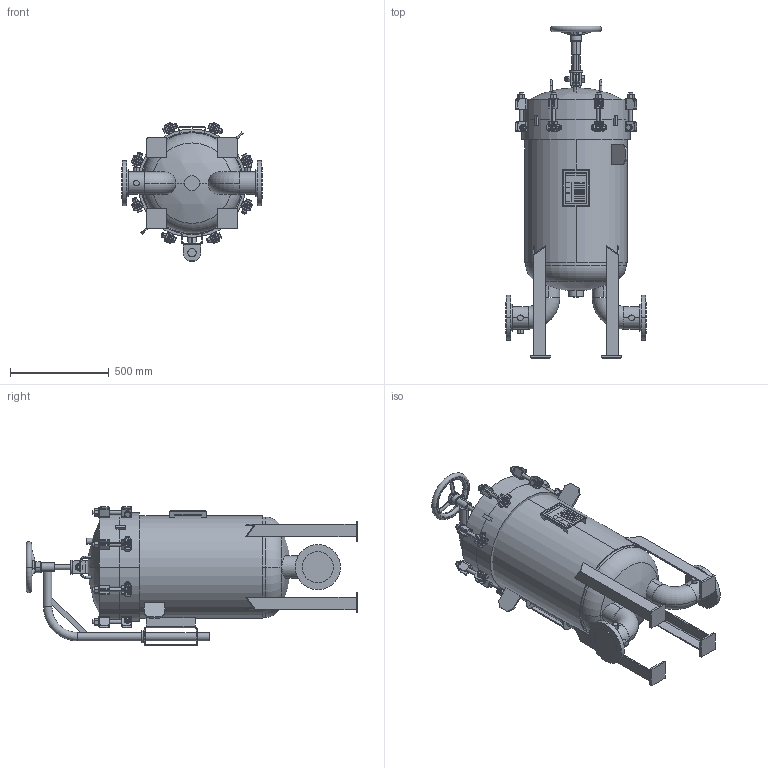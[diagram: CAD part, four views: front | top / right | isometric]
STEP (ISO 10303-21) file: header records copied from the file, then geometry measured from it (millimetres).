
FILE_DESCRIPTION (( 'STEP AP203' ), '1' );
FILE_NAME ('002005-00173.step', '2025-12-09T14:46:25', ( '' ), ( '' ), 'SwSTEP 2.0', 'SolidWorks 2023', '' );
FILE_SCHEMA (( 'CONFIG_CONTROL_DESIGN' ));
Length unit declared in the file: inch
Products named in the file (1): 002005-00173
Bounding box: 711.2 x 1681.99 x 704.28 mm (x, y, z)
Volume: 95352486.1 mm3; surface area: 6591948 mm2
Topology: 50 solids, 50 shells, 1697 faces, 3934 edges, 2442 vertices
Faces by surface type: plane 717, cylinder 470, cone 364, torus 86, bspline 48, sphere 12
Entity records: 55821 total; most frequent: CARTESIAN_POINT 17721, DIRECTION 8002, ORIENTED_EDGE 7844, EDGE_CURVE 3922, AXIS2_PLACEMENT_3D 3186, VERTEX_POINT 2442, EDGE_LOOP 1828, FACE_OUTER_BOUND 1697
